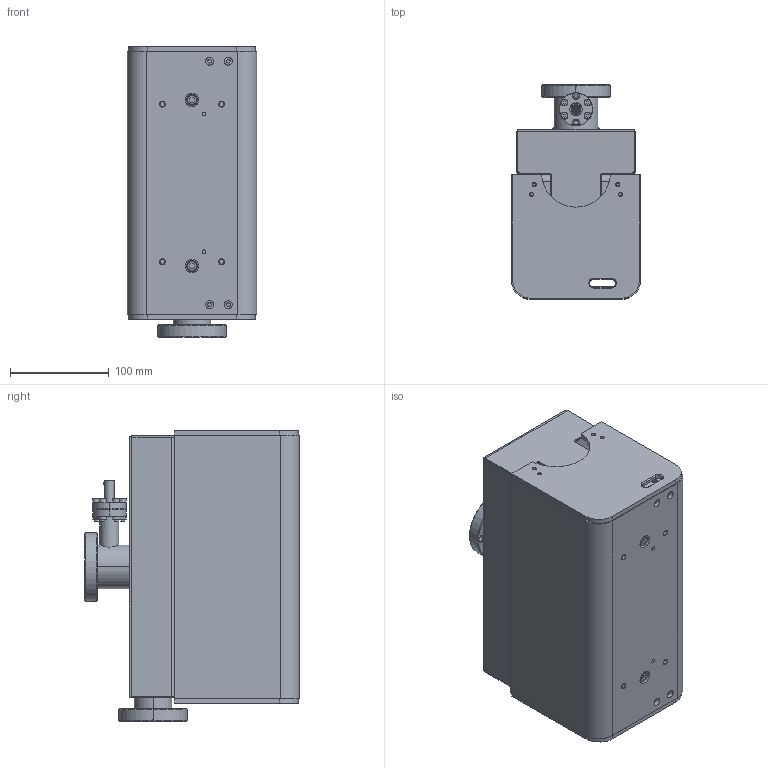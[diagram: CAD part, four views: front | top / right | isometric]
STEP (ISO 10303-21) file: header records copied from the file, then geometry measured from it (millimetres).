
FILE_DESCRIPTION((''),'2;1');
FILE_NAME('75S-XX-2D-XX','2020-12-02T15:07:23',('langebj'),('Gamma Vacuum, LLC'),'CREO PARAMETRIC BY PTC INC, 2020044','CREO PARAMETRIC BY PTC INC, 2020044','');
FILE_SCHEMA(('AUTOMOTIVE_DESIGN { 1 0 10303 214 1 1 1 1 }'));
Products named in the file (1): 75S-XX-2D-XX
Bounding box: 131.2 x 217.51 x 295.08 mm (x, y, z)
Surface area: 662775.3 mm2 (no closed solid volume)
Topology: 0 solids, 0 shells, 1133 faces, 5652 edges, 5618 vertices
Faces by surface type: cylinder 469, plane 416, cone 196, torus 44, bspline 6, sphere 2
Entity records: 84062 total; most frequent: CARTESIAN_POINT 21128, DIRECTION 10804, TRIMMED_CURVE 7228, VECTOR 5923, LINE 5923, DEFINITIONAL_REPRESENTATION 5586, PCURVE 5586, COMPOSITE_CURVE_SEGMENT 5586
